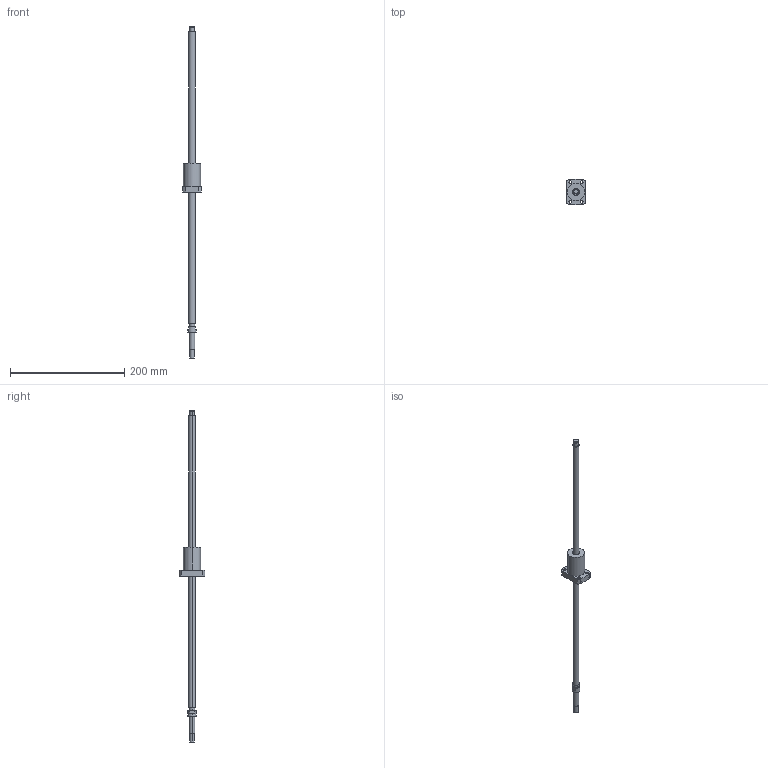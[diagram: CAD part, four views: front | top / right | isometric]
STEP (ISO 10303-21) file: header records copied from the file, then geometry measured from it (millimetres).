
FILE_DESCRIPTION((''),'2;1');
FILE_NAME('R12-10B1-FSW-510-580','2008-03-28T',('mahdi'),(''),'PRO/ENGINEER BY PARAMETRIC TECHNOLOGY CORPORATION, 2005070','PRO/ENGINEER BY PARAMETRIC TECHNOLOGY CORPORATION, 2005070','');
FILE_SCHEMA(('CONFIG_CONTROL_DESIGN'));
Length unit declared in the file: millimetre
Products named in the file (1): R12-10B1-FSW-510-580
Bounding box: 32 x 45 x 580 mm (x, y, z)
Volume: 98660.7 mm3; surface area: 28323.2 mm2
Topology: 1 solids, 1 shells, 64 faces, 144 edges, 96 vertices
Faces by surface type: cylinder 40, plane 24
Entity records: 1886 total; most frequent: DIRECTION 356, CARTESIAN_POINT 304, ORIENTED_EDGE 288, AXIS2_PLACEMENT_3D 148, EDGE_CURVE 144, VERTEX_POINT 96, EDGE_LOOP 86, CIRCLE 84
